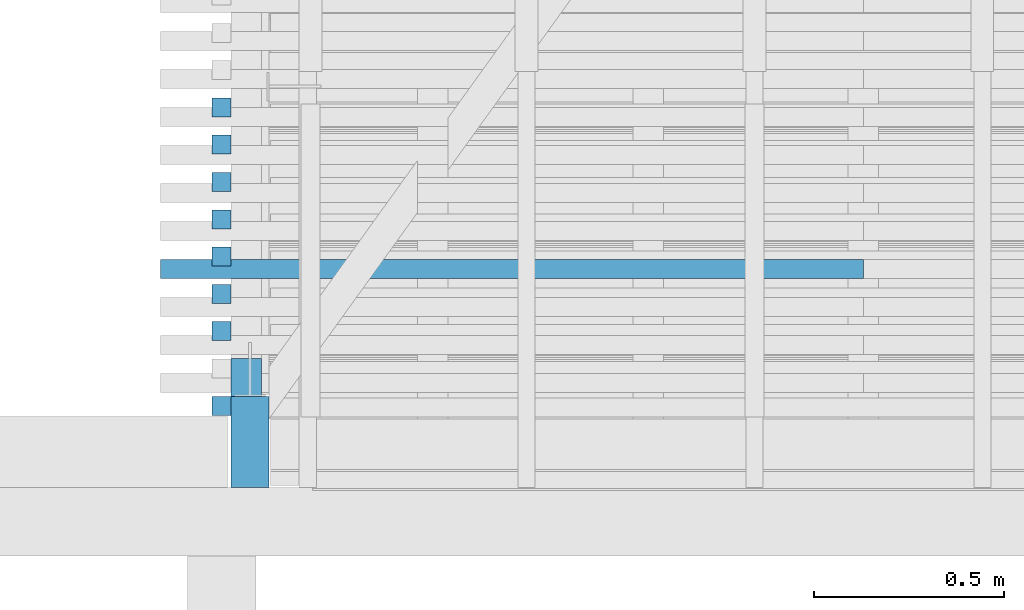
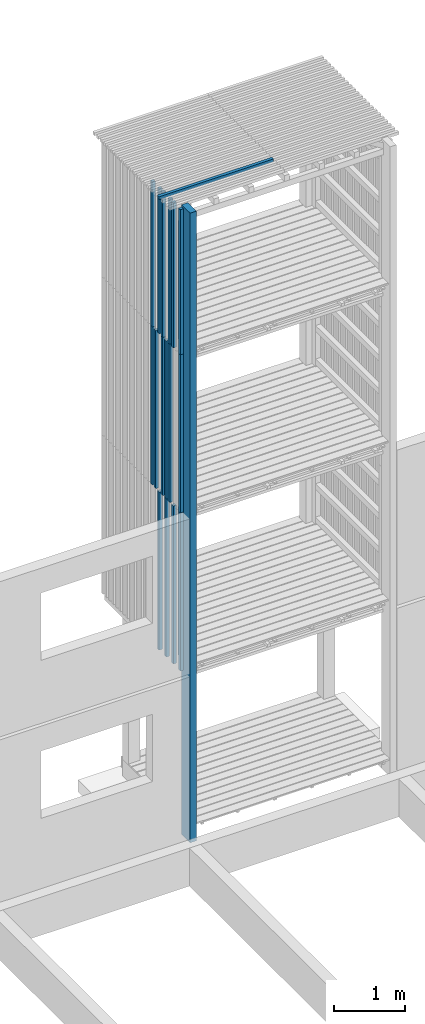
# One storey, part 8 of 182: 20 beams.
"""IFC2X3 building model written with IfcOpenShell, lengths in metres."""

import ifcopenshell
import ifcopenshell.guid

model = None  # the IFC model being written
_history = None  # IfcOwnerHistory: only IFC2X3 demands one
_inside = {}  # id of a spatial element -> (the spatial element, [elements in it])
_under = {}  # id of a project, library or spatial element -> (it, [spatial elements below it])
_declared = {}  # id of a project -> (the project, [libraries it declares])
_typed = {}  # id of a type object -> (the type object, [elements of that type])
_made_of = {}  # id of a material, layer set ... -> (it, [elements and type objects made of it])


def new_model(schema):
    """Start an empty IFC model of exactly this schema.

    Asked for "IFC4X3", IfcOpenShell would pick the latest addendum, in which some entities
    have other attributes; the version numbers below select the first issue.
    IFC2X3 requires an IfcOwnerHistory on every rooted entity: one is made here for all.
    """
    global model, _history
    if schema == "IFC4X3":
        model = ifcopenshell.file(schema_version=(4, 3, 0, 0))
    else:
        model = ifcopenshell.file(schema=schema)
    _inside.clear()
    _under.clear()
    _declared.clear()
    _typed.clear()
    _made_of.clear()
    _history = None
    if model.schema == "IFC2X3":
        org = make("IfcOrganization", Name="unknown")
        user = make(
            "IfcPersonAndOrganization",
            ThePerson=make("IfcPerson", FamilyName="unknown"),
            TheOrganization=org,
        )
        app = make(
            "IfcApplication",
            ApplicationDeveloper=org,
            Version="unknown",
            ApplicationFullName="unknown",
            ApplicationIdentifier="unknown",
        )
        _history = make(
            "IfcOwnerHistory",
            OwningUser=user,
            OwningApplication=app,
            ChangeAction="ADDED",
            CreationDate=0,
        )
    return model


def make(cls, **values):
    """One entity of the class cls with the attributes given. An attribute that is None is left unset."""
    return model.create_entity(
        cls, **{name: value for name, value in values.items() if value is not None}
    )


def rooted(cls, **values):
    """An entity with a GlobalId (a new one), such as an element, a storey or a relation."""
    return make(cls, GlobalId=ifcopenshell.guid.new(), OwnerHistory=_history, **values)


def si_unit(unit_type, name, prefix=None):
    """IfcSIUnit, for example si_unit("LENGTHUNIT", "METRE", prefix="MILLI")."""
    return make("IfcSIUnit", UnitType=unit_type, Prefix=prefix, Name=name)


def assignment(units):
    """IfcUnitAssignment: the units of a project."""
    return None if units is None else make("IfcUnitAssignment", Units=units)


def point(xyz):
    """IfcCartesianPoint."""
    return None if xyz is None else make("IfcCartesianPoint", Coordinates=xyz)


def direction(xyz):
    """IfcDirection."""
    return None if xyz is None else make("IfcDirection", DirectionRatios=xyz)


def frame(location, z_axis=None, x_axis=None):
    """IfcAxis2Placement3D, a coordinate frame: its origin and axes. An axis left out is left unset."""
    return make(
        "IfcAxis2Placement3D",
        Location=point(location),
        Axis=direction(z_axis),
        RefDirection=direction(x_axis),
    )


def origin():
    """The frame at (0, 0, 0) with its axes left unset."""
    return frame((0.0, 0.0, 0.0))


def place(relative_to, where):
    """IfcLocalPlacement: puts the frame where relative to a parent placement (None: the world)."""
    return make(
        "IfcLocalPlacement", PlacementRelTo=relative_to, RelativePlacement=where
    )


def context(
    kind, dimensions, precision=None, world=None, true_north=None, identifier=None
):
    """IfcGeometricRepresentationContext, for example the 3D "Model" context."""
    return make(
        "IfcGeometricRepresentationContext",
        ContextIdentifier=identifier,
        ContextType=kind,
        CoordinateSpaceDimension=dimensions,
        Precision=precision,
        WorldCoordinateSystem=world,
        TrueNorth=true_north,
    )


def project(units=None, contexts=None):
    """IfcProject with its units and contexts."""
    return rooted(
        "IfcProject",
        Name="project",
        RepresentationContexts=contexts,
        UnitsInContext=assignment(units),
    )


def spatial(cls, under=None, at=None, **own):
    """A site, building, storey or space (cls), placed at a placement, below another one or the project."""
    s = rooted(cls, ObjectPlacement=at, **own)
    if under is not None:
        _under.setdefault(under.id(), (under, []))[1].append(s)
    return s


def faces_of(points, faces, orient=None, outer=None):
    """IfcFace entities. A face is a list of loops; a loop is a list of indices into points, from 0.

    orient and outer hold one flag for each loop. By default every Orientation is true, the
    first loop of a face is its IfcFaceOuterBound and the others are IfcFaceBound.
    """
    made = []
    for i, loops in enumerate(faces):
        bounds = []
        for j, loop in enumerate(loops):
            is_outer = j == 0 if outer is None else outer[i][j]
            bounds.append(
                make(
                    "IfcFaceOuterBound" if is_outer else "IfcFaceBound",
                    Bound=make("IfcPolyLoop", Polygon=[points[k] for k in loop]),
                    Orientation=True if orient is None else orient[i][j],
                )
            )
        made.append(make("IfcFace", Bounds=bounds))
    return made


def faceted_brep(points, faces, orient=None, outer=None, voids=None):
    """IfcFacetedBrep: a solid bounded by flat faces; with voids (closed shells), ...WithVoids."""
    shared = [point(p) for p in points]
    hull = make("IfcClosedShell", CfsFaces=faces_of(shared, faces, orient, outer))
    if voids is None:
        return make("IfcFacetedBrep", Outer=hull)
    return make(
        "IfcFacetedBrepWithVoids",
        Outer=hull,
        Voids=[
            make(cls, CfsFaces=faces_of(shared, fs, o, b)) for cls, fs, o, b in voids
        ],
    )


def shape(context_of_items, identifier, shape_type, items):
    """IfcShapeRepresentation: the items that make up one representation, for example the "Body"."""
    return make(
        "IfcShapeRepresentation",
        ContextOfItems=context_of_items,
        RepresentationIdentifier=identifier,
        RepresentationType=shape_type,
        Items=items,
    )


def made_of(thing, what):
    """Note that an element or type object is made of a material, layer set ...; save() writes the relation."""
    if what is not None:
        _made_of.setdefault(what.id(), (what, []))[1].append(thing)
    return thing


def element(
    cls,
    number,
    at=None,
    inside=None,
    cuts=None,
    type_object=None,
    material=None,
    context=None,
    identifier="Body",
    shape_type=None,
    held_by="IfcProductDefinitionShape",
    body=None,
    shapes=None,
    **own,
):
    """One element of the class cls, such as IfcWall. Its Tag is "e" and its number.

    at: its placement. inside: the storey or other place that contains it. cuts: it is an
    opening in that element (IfcRelVoidsElement). A single representation is given by context,
    identifier, shape_type and body (its items); several are given by shapes. held_by: the class
    of the entity that holds the representations. save() writes the other relations.
    """
    e = rooted(cls, Tag="e%d" % number, ObjectPlacement=at, **own)
    if body is not None:
        shapes = [shape(context, identifier, shape_type, body)]
    if shapes is not None:
        e.Representation = make(held_by, Representations=shapes)
    if inside is not None:
        _inside.setdefault(inside.id(), (inside, []))[1].append(e)
    if cuts is not None:
        rooted(
            "IfcRelVoidsElement", RelatingBuildingElement=cuts, RelatedOpeningElement=e
        )
    if type_object is not None:
        _typed.setdefault(type_object.id(), (type_object, []))[1].append(e)
    return made_of(e, material)


def aggregate(whole, parts):
    """IfcRelAggregates: a whole, such as a stair, and the parts it consists of."""
    return rooted("IfcRelAggregates", RelatingObject=whole, RelatedObjects=parts)


def save(model, path):
    """Write the relations noted so far, then the file.

    IfcRelAggregates (storeys below a building ...), IfcRelContainedInSpatialStructure (elements
    in a storey), IfcRelDefinesByType, IfcRelAssociatesMaterial and IfcRelDeclares: one each for
    every whole, place, type object, material and project.
    """
    for whole, parts in _under.values():
        aggregate(whole, parts)
    for where, things in _inside.values():
        rooted(
            "IfcRelContainedInSpatialStructure",
            RelatedElements=things,
            RelatingStructure=where,
        )
    for kind, things in _typed.values():
        rooted("IfcRelDefinesByType", RelatedObjects=things, RelatingType=kind)
    for what, things in _made_of.values():
        rooted("IfcRelAssociatesMaterial", RelatedObjects=things, RelatingMaterial=what)
    for by, libraries in _declared.values():
        rooted("IfcRelDeclares", RelatingContext=by, RelatedDefinitions=libraries)
    model.write(path)


model = new_model("IFC2X3")

# Units and contexts
model_context = context("Model", 3, precision=1e-06, world=origin())
ifc_project = project(units=[si_unit("LENGTHUNIT", "METRE"), si_unit("PLANEANGLEUNIT", "RADIAN")], contexts=[model_context])

# Site, building, storey
site = spatial("IfcSite", under=ifc_project, CompositionType="ELEMENT")
building = spatial("IfcBuilding", under=site, CompositionType="ELEMENT")
storey = spatial("IfcBuildingStorey", under=building, Name="vs", CompositionType="ELEMENT", Elevation=-0.85)

# Beams
placement = place(None, origin())
beam_1_placement = place(placement, frame((3.289197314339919, 10.685077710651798, 5.274999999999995), z_axis=(1.0, 0.0, 0.0), x_axis=(0.0, 0.0, 1.0)))
element("IfcBeam", 1, at=beam_1_placement, inside=storey, Name="Bardage", context=model_context, shape_type="Brep", body=[
    faceted_brep([(2.699999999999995, 0.025000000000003, 0.025000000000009), (2.699999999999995, -0.024999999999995, 0.025000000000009), (2.699999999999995, -0.024999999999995, -0.025000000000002), (2.699999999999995, 0.025000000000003, -0.025000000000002), (1e-15, 0.025000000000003, 0.025000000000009), (2.699999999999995, 0.025000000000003, 0.025000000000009), (2.699999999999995, 0.025000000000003, -0.025000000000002), (1e-15, 0.025000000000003, -0.025000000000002), (1e-15, -0.024999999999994, 0.025000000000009), (1e-15, 0.025000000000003, 0.025000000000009), (1e-15, 0.025000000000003, -0.025000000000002), (1e-15, -0.024999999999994, -0.025000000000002), (1e-15, 0.025000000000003, 0.025000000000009), (1e-15, -0.024999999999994, 0.025000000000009), (2.699999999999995, -0.024999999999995, 0.025000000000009), (2.699999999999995, 0.025000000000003, 0.025000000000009), (1e-15, -0.024999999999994, 0.025000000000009), (1e-15, -0.024999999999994, -0.025000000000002), (2.699999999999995, -0.024999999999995, -0.025000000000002), (2.699999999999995, -0.024999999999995, 0.025000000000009), (1e-15, -0.024999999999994, -0.025000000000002), (1e-15, 0.025000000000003, -0.025000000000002), (2.699999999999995, 0.025000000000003, -0.025000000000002), (2.699999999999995, -0.024999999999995, -0.025000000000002)], [[[0, 1, 2, 3]], [[4, 5, 6, 7]], [[8, 9, 10, 11]], [[12, 13, 14, 15]], [[16, 17, 18, 19]], [[20, 21, 22, 23]]]),
])
beam_2_placement = place(placement, frame((3.289197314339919, 11.274168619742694, 2.575000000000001), z_axis=(1.0, 0.0, 0.0), x_axis=(0.0, 1e-15, 1.0)))
element("IfcBeam", 2, at=beam_2_placement, inside=storey, Name="Bardage", context=model_context, shape_type="Brep", body=[
    faceted_brep([(2.699961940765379, -0.024999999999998, 0.025000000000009), (2.699961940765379, -0.024999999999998, -0.025000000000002), (2.699961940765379, 0.025000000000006, -0.025000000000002), (2.699961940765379, 0.025000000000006, 0.025000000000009), (0.0, -0.025000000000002, 0.025000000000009), (2.699961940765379, -0.024999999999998, 0.025000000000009), (2.699961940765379, 0.025000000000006, 0.025000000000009), (0.0, 0.025000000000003, 0.025000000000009), (0.0, -0.025000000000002, 0.025000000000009), (0.0, 0.025000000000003, 0.025000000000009), (0.0, 0.025000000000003, -0.025000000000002), (0.0, -0.025000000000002, -0.025000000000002), (0.0, -0.025000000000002, 0.025000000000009), (0.0, -0.025000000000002, -0.025000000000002), (2.699961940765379, -0.024999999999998, -0.025000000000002), (2.699961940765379, -0.024999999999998, 0.025000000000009), (0.0, -0.025000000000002, -0.025000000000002), (0.0, 0.025000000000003, -0.025000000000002), (2.699961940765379, 0.025000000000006, -0.025000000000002), (2.699961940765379, -0.024999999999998, -0.025000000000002), (0.0, 0.025000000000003, -0.025000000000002), (0.0, 0.025000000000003, 0.025000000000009), (2.699961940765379, 0.025000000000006, 0.025000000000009), (2.699961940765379, 0.025000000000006, -0.025000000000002)], [[[0, 1, 2, 3]], [[4, 5, 6, 7]], [[8, 9, 10, 11]], [[12, 13, 14, 15]], [[16, 17, 18, 19]], [[20, 21, 22, 23]]]),
])
beam_3_placement = place(placement, frame((4.979197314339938, 11.045077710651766, 10.47999999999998), z_axis=(0.0, 0.0, 1.0), x_axis=(-1.0, -2e-15, 0.0)))
element("IfcBeam", 3, at=beam_3_placement, inside=storey, Name="Bardage", context=model_context, shape_type="Brep", body=[
    faceted_brep([(1.850000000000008, -0.025000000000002, -0.024999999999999), (1.850000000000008, -0.025000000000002, 0.025000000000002), (-1e-15, -0.025000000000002, 0.025000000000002), (-1e-15, -0.025000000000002, -0.024999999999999), (1.850000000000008, -0.025000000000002, 0.025000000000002), (1.850000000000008, -0.025000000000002, -0.024999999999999), (1.850000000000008, 0.024999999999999, -0.024999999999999), (1.850000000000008, 0.024999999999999, 0.025000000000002), (1.850000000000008, 0.024999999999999, -0.024999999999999), (1.850000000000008, -0.025000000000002, -0.024999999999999), (-1e-15, -0.025000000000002, -0.024999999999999), (-1e-15, 0.025000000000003, -0.024999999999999), (1.850000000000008, 0.024999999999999, 0.025000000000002), (1.850000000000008, 0.024999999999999, -0.024999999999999), (-1e-15, 0.025000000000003, -0.024999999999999), (-1e-15, 0.025000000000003, 0.025000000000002), (-1e-15, -0.025000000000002, 0.025000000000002), (1.850000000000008, -0.025000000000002, 0.025000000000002), (1.850000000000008, 0.024999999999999, 0.025000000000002), (-1e-15, 0.025000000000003, 0.025000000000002), (-1e-15, -0.025000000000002, -0.024999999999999), (-1e-15, -0.025000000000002, 0.025000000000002), (-1e-15, 0.025000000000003, 0.025000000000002), (-1e-15, 0.025000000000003, -0.024999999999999)], [[[0, 1, 2, 3]], [[4, 5, 6, 7]], [[8, 9, 10, 11]], [[12, 13, 14, 15]], [[16, 17, 18, 19]], [[20, 21, 22, 23]]]),
])
beam_4_placement = place(placement, frame((3.289197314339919, 11.470532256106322, 7.974999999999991), z_axis=(1.0, 0.0, 0.0), x_axis=(0.0, 0.0, 1.0)))
element("IfcBeam", 4, at=beam_4_placement, inside=storey, Name="Bardage", context=model_context, shape_type="Brep", body=[
    faceted_brep([(0.0, -0.025000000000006, 0.025000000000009), (0.0, 0.024999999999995, 0.025000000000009), (0.0, 0.024999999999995, -0.025000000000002), (0.0, -0.025000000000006, -0.025000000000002), (2.479999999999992, 0.024999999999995, -0.025000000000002), (2.479999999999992, 0.024999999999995, 0.025000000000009), (2.479999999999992, -0.025000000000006, 0.025000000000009), (2.479999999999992, -0.025000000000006, -0.025000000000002), (0.0, 0.024999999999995, 0.025000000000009), (0.0, -0.025000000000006, 0.025000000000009), (2.479999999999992, -0.025000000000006, 0.025000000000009), (2.479999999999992, 0.024999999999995, 0.025000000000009), (0.0, 0.024999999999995, -0.025000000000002), (0.0, 0.024999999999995, 0.025000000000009), (2.479999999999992, 0.024999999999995, 0.025000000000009), (2.479999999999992, 0.024999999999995, -0.025000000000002), (0.0, -0.025000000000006, -0.025000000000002), (0.0, 0.024999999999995, -0.025000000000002), (2.479999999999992, 0.024999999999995, -0.025000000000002), (2.479999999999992, -0.025000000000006, -0.025000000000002), (2.479999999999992, -0.025000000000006, 0.025000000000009), (0.0, -0.025000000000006, 0.025000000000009), (0.0, -0.025000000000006, -0.025000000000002), (2.479999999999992, -0.025000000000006, -0.025000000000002)], [[[0, 1, 2, 3]], [[4, 5, 6, 7]], [[8, 9, 10, 11]], [[12, 13, 14, 15]], [[16, 17, 18, 19]], [[20, 21, 22, 23]]]),
])
beam_5_placement = place(placement, frame((3.289197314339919, 10.685077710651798, 7.974999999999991), z_axis=(1.0, 0.0, 0.0), x_axis=(0.0, 0.0, 1.0)))
element("IfcBeam", 5, at=beam_5_placement, inside=storey, Name="Bardage", context=model_context, shape_type="Brep", body=[
    faceted_brep([(0.0, -0.024999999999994, 0.025000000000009), (0.0, 0.025000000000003, 0.025000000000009), (0.0, 0.025000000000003, -0.025000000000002), (0.0, -0.024999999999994, -0.025000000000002), (2.479999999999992, 0.025000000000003, -0.025000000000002), (2.479999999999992, 0.025000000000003, 0.025000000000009), (2.479999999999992, -0.024999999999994, 0.025000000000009), (2.479999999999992, -0.024999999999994, -0.025000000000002), (0.0, 0.025000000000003, 0.025000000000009), (0.0, -0.024999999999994, 0.025000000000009), (2.479999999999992, -0.024999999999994, 0.025000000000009), (2.479999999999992, 0.025000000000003, 0.025000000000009), (0.0, 0.025000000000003, -0.025000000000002), (0.0, 0.025000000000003, 0.025000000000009), (2.479999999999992, 0.025000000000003, 0.025000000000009), (2.479999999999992, 0.025000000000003, -0.025000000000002), (0.0, -0.024999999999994, -0.025000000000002), (0.0, 0.025000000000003, -0.025000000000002), (2.479999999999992, 0.025000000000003, -0.025000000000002), (2.479999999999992, -0.024999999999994, -0.025000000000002), (2.479999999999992, -0.024999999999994, 0.025000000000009), (0.0, -0.024999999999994, 0.025000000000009), (0.0, -0.024999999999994, -0.025000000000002), (2.479999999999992, -0.024999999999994, -0.025000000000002)], [[[0, 1, 2, 3]], [[4, 5, 6, 7]], [[8, 9, 10, 11]], [[12, 13, 14, 15]], [[16, 17, 18, 19]], [[20, 21, 22, 23]]]),
])
beam_6_placement = place(placement, frame((3.289197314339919, 10.685077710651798, 2.575000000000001), z_axis=(1.0, 0.0, 0.0), x_axis=(0.0, 0.0, 1.0)))
element("IfcBeam", 6, at=beam_6_placement, inside=storey, Name="Bardage", context=model_context, shape_type="Brep", body=[
    faceted_brep([(2.699961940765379, -0.024999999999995, 0.025000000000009), (2.699961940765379, -0.024999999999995, -0.025000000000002), (2.699961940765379, 0.025000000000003, -0.025000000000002), (2.699961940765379, 0.025000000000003, 0.025000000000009), (0.0, -0.024999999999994, 0.025000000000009), (2.699961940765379, -0.024999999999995, 0.025000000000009), (2.699961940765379, 0.025000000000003, 0.025000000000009), (0.0, 0.025000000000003, 0.025000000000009), (0.0, -0.024999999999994, 0.025000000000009), (0.0, 0.025000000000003, 0.025000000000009), (0.0, 0.025000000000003, -0.025000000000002), (0.0, -0.024999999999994, -0.025000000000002), (0.0, -0.024999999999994, 0.025000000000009), (0.0, -0.024999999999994, -0.025000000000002), (2.699961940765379, -0.024999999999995, -0.025000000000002), (2.699961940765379, -0.024999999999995, 0.025000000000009), (0.0, -0.024999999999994, -0.025000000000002), (0.0, 0.025000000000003, -0.025000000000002), (2.699961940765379, 0.025000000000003, -0.025000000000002), (2.699961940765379, -0.024999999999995, -0.025000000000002), (0.0, 0.025000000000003, -0.025000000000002), (0.0, 0.025000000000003, 0.025000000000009), (2.699961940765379, 0.025000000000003, 0.025000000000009), (2.699961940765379, 0.025000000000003, -0.025000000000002)], [[[0, 1, 2, 3]], [[4, 5, 6, 7]], [[8, 9, 10, 11]], [[12, 13, 14, 15]], [[16, 17, 18, 19]], [[20, 21, 22, 23]]]),
])
beam_7_placement = place(placement, frame((3.354197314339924, 10.760077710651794, 8.14699999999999), z_axis=(0.0, 1.0, 0.0), x_axis=(0.0, 0.0, 1.0)))
element("IfcBeam", 7, at=beam_7_placement, inside=storey, Name="Support bardage", context=model_context, shape_type="Brep", body=[
    faceted_brep([(2.017999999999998, -0.039999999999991, 0.05), (2.017999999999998, -0.039999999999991, -0.050000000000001), (2.017999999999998, 0.040000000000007, -0.050000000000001), (2.017999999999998, 0.040000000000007, 0.05), (1e-15, -0.039999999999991, -0.050000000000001), (1e-15, -0.039999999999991, 0.05), (1e-15, 0.040000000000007, 0.05), (1e-15, 0.040000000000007, -0.050000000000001), (2.017999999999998, 0.040000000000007, -0.050000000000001), (2.017999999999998, -0.039999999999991, -0.050000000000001), (1e-15, -0.039999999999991, -0.050000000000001), (1e-15, 0.040000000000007, -0.050000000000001), (1e-15, -0.039999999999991, -0.050000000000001), (2.017999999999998, -0.039999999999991, -0.050000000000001), (2.017999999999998, -0.039999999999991, 0.05), (1e-15, -0.039999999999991, 0.05), (1e-15, -0.039999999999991, 0.05), (2.017999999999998, -0.039999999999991, 0.05), (2.017999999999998, 0.040000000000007, 0.05), (1e-15, 0.040000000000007, 0.05), (1e-15, 0.040000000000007, 0.05), (2.017999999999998, 0.040000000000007, 0.05), (2.017999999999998, 0.040000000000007, -0.050000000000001), (1e-15, 0.040000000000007, -0.050000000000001)], [[[0, 1, 2, 3]], [[4, 5, 6, 7]], [[8, 9, 10, 11]], [[12, 13, 14, 15]], [[16, 17, 18, 19]], [[20, 21, 22, 23]]]),
])
beam_8_placement = place(placement, frame((3.289197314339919, 10.979623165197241, 5.274999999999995), z_axis=(1.0, 0.0, 0.0), x_axis=(0.0, 1e-15, 1.0)))
element("IfcBeam", 8, at=beam_8_placement, inside=storey, Name="Bardage", context=model_context, shape_type="Brep", body=[
    faceted_brep([(2.699999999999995, 0.025000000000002, 0.025000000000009), (2.699999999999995, -0.024999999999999, 0.025000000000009), (2.699999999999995, -0.024999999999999, -0.025000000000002), (2.699999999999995, 0.025000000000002, -0.025000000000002), (1e-15, 0.024999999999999, 0.025000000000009), (2.699999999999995, 0.025000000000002, 0.025000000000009), (2.699999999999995, 0.025000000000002, -0.025000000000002), (1e-15, 0.024999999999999, -0.025000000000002), (1e-15, -0.025000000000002, 0.025000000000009), (1e-15, 0.024999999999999, 0.025000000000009), (1e-15, 0.024999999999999, -0.025000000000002), (1e-15, -0.025000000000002, -0.025000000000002), (1e-15, 0.024999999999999, 0.025000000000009), (1e-15, -0.025000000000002, 0.025000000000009), (2.699999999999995, -0.024999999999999, 0.025000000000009), (2.699999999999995, 0.025000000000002, 0.025000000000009), (1e-15, -0.025000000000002, 0.025000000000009), (1e-15, -0.025000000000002, -0.025000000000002), (2.699999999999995, -0.024999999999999, -0.025000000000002), (2.699999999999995, -0.024999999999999, 0.025000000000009), (1e-15, -0.025000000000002, -0.025000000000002), (1e-15, 0.024999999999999, -0.025000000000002), (2.699999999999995, 0.025000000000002, -0.025000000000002), (2.699999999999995, -0.024999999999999, -0.025000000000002)], [[[0, 1, 2, 3]], [[4, 5, 6, 7]], [[8, 9, 10, 11]], [[12, 13, 14, 15]], [[16, 17, 18, 19]], [[20, 21, 22, 23]]]),
])
beam_9_placement = place(placement, frame((3.289197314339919, 11.470532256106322, 5.274999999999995), z_axis=(1.0, 0.0, 0.0), x_axis=(0.0, 0.0, 1.0)))
element("IfcBeam", 9, at=beam_9_placement, inside=storey, Name="Bardage", context=model_context, shape_type="Brep", body=[
    faceted_brep([(2.699999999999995, 0.024999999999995, 0.025000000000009), (2.699999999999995, -0.025000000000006, 0.025000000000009), (2.699999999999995, -0.025000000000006, -0.025000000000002), (2.699999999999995, 0.024999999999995, -0.025000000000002), (1e-15, 0.024999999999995, 0.025000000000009), (2.699999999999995, 0.024999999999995, 0.025000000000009), (2.699999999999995, 0.024999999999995, -0.025000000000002), (1e-15, 0.024999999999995, -0.025000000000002), (1e-15, -0.025000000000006, 0.025000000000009), (1e-15, 0.024999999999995, 0.025000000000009), (1e-15, 0.024999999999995, -0.025000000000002), (1e-15, -0.025000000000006, -0.025000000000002), (1e-15, 0.024999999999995, 0.025000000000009), (1e-15, -0.025000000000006, 0.025000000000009), (2.699999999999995, -0.025000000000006, 0.025000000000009), (2.699999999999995, 0.024999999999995, 0.025000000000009), (1e-15, -0.025000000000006, 0.025000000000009), (1e-15, -0.025000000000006, -0.025000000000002), (2.699999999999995, -0.025000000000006, -0.025000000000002), (2.699999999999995, -0.025000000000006, 0.025000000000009), (1e-15, -0.025000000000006, -0.025000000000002), (1e-15, 0.024999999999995, -0.025000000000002), (2.699999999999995, 0.024999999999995, -0.025000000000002), (2.699999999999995, -0.025000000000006, -0.025000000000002)], [[[0, 1, 2, 3]], [[4, 5, 6, 7]], [[8, 9, 10, 11]], [[12, 13, 14, 15]], [[16, 17, 18, 19]], [[20, 21, 22, 23]]]),
])
beam_10_placement = place(placement, frame((3.289197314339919, 11.274168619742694, 7.974999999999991), z_axis=(1.0, 0.0, 0.0), x_axis=(0.0, 0.0, 1.0)))
element("IfcBeam", 10, at=beam_10_placement, inside=storey, Name="Bardage", context=model_context, shape_type="Brep", body=[
    faceted_brep([(0.0, -0.025000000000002, 0.025000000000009), (0.0, 0.025000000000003, 0.025000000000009), (0.0, 0.025000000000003, -0.025000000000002), (0.0, -0.025000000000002, -0.025000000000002), (2.479999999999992, 0.025000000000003, -0.025000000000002), (2.479999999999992, 0.025000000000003, 0.025000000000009), (2.479999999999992, -0.025000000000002, 0.025000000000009), (2.479999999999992, -0.025000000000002, -0.025000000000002), (0.0, 0.025000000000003, 0.025000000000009), (0.0, -0.025000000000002, 0.025000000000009), (2.479999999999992, -0.025000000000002, 0.025000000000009), (2.479999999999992, 0.025000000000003, 0.025000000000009), (0.0, 0.025000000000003, -0.025000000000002), (0.0, 0.025000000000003, 0.025000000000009), (2.479999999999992, 0.025000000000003, 0.025000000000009), (2.479999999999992, 0.025000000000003, -0.025000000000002), (0.0, -0.025000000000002, -0.025000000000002), (0.0, 0.025000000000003, -0.025000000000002), (2.479999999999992, 0.025000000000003, -0.025000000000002), (2.479999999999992, -0.025000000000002, -0.025000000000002), (2.479999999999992, -0.025000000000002, 0.025000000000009), (0.0, -0.025000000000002, 0.025000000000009), (0.0, -0.025000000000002, -0.025000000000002), (2.479999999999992, -0.025000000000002, -0.025000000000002)], [[[0, 1, 2, 3]], [[4, 5, 6, 7]], [[8, 9, 10, 11]], [[12, 13, 14, 15]], [[16, 17, 18, 19]], [[20, 21, 22, 23]]]),
])
beam_11_placement = place(placement, frame((3.364197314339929, 10.590077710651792, 10.494999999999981), z_axis=(0.0, 1.0, 0.0), x_axis=(0.0, 0.0, -1.0)))
element("IfcBeam", 11, at=beam_11_placement, inside=storey, Name="Poteau", context=model_context, shape_type="Brep", body=[
    faceted_brep([(0.0, -0.049999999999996, 0.120000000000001), (0.0, -0.049999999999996, -0.120000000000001), (10.754999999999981, -0.049999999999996, -0.120000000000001), (10.754999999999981, -0.049999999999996, 0.120000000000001), (10.754999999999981, -0.049999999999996, -0.120000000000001), (0.0, -0.049999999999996, -0.120000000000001), (0.0, 0.049999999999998, -0.120000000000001), (10.754999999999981, 0.049999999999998, -0.120000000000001), (10.754999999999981, -0.049999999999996, 0.120000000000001), (10.754999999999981, -0.049999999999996, -0.120000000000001), (10.754999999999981, 0.049999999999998, -0.120000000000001), (10.754999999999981, 0.049999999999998, 0.120000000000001), (0.0, -0.049999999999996, 0.120000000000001), (10.754999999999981, -0.049999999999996, 0.120000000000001), (10.754999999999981, 0.049999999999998, 0.120000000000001), (0.0, 0.049999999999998, 0.120000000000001), (10.754999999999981, 0.049999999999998, -0.120000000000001), (0.0, 0.049999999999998, -0.120000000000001), (0.0, 0.049999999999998, 0.120000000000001), (10.754999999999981, 0.049999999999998, 0.120000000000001), (0.0, 0.049999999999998, 0.120000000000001), (0.0, 0.049999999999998, -0.120000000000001), (0.0, -0.049999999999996, -0.120000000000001), (0.0, -0.049999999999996, 0.120000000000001)], [[[0, 1, 2, 3]], [[4, 5, 6, 7]], [[8, 9, 10, 11]], [[12, 13, 14, 15]], [[16, 17, 18, 19]], [[20, 21, 22, 23]]]),
])
beam_12_placement = place(placement, frame((3.354197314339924, 10.760077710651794, 2.746999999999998), z_axis=(0.0, 1.0, 0.0), x_axis=(0.0, 0.0, 1.0)))
element("IfcBeam", 12, at=beam_12_placement, inside=storey, Name="Support bardage", context=model_context, shape_type="Brep", body=[
    faceted_brep([(2.527961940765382, 0.040000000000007, -0.050000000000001), (2.527961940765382, 0.040000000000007, 0.05), (2.527961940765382, -0.039999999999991, 0.05), (2.527961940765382, -0.039999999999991, -0.050000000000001), (0.0, 0.040000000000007, -0.050000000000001), (2.527961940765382, 0.040000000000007, -0.050000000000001), (2.527961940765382, -0.039999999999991, -0.050000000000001), (0.0, -0.039999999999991, -0.050000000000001), (0.0, 0.040000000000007, -0.050000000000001), (0.0, -0.039999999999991, -0.050000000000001), (0.0, -0.039999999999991, 0.05), (0.0, 0.040000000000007, 0.05), (0.0, 0.040000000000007, -0.050000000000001), (0.0, 0.040000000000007, 0.05), (2.527961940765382, 0.040000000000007, 0.05), (2.527961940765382, 0.040000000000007, -0.050000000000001), (0.0, 0.040000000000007, 0.05), (0.0, -0.039999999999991, 0.05), (2.527961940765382, -0.039999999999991, 0.05), (2.527961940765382, 0.040000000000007, 0.05), (0.0, -0.039999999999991, 0.05), (0.0, -0.039999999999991, -0.050000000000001), (2.527961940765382, -0.039999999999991, -0.050000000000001), (2.527961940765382, -0.039999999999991, 0.05)], [[[0, 1, 2, 3]], [[4, 5, 6, 7]], [[8, 9, 10, 11]], [[12, 13, 14, 15]], [[16, 17, 18, 19]], [[20, 21, 22, 23]]]),
])
beam_13_placement = place(placement, frame((3.289197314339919, 11.175986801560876, 5.274999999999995), z_axis=(1.0, 0.0, 0.0), x_axis=(0.0, 0.0, 1.0)))
element("IfcBeam", 13, at=beam_13_placement, inside=storey, Name="Bardage", context=model_context, shape_type="Brep", body=[
    faceted_brep([(2.699999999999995, 0.024999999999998, 0.025000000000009), (2.699999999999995, -0.024999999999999, 0.025000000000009), (2.699999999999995, -0.024999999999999, -0.025000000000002), (2.699999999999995, 0.024999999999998, -0.025000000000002), (1e-15, 0.024999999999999, 0.025000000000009), (2.699999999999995, 0.024999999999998, 0.025000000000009), (2.699999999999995, 0.024999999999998, -0.025000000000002), (1e-15, 0.024999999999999, -0.025000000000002), (1e-15, -0.024999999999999, 0.025000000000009), (1e-15, 0.024999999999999, 0.025000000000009), (1e-15, 0.024999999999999, -0.025000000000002), (1e-15, -0.024999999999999, -0.025000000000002), (1e-15, 0.024999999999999, 0.025000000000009), (1e-15, -0.024999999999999, 0.025000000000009), (2.699999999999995, -0.024999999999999, 0.025000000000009), (2.699999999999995, 0.024999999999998, 0.025000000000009), (1e-15, -0.024999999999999, 0.025000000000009), (1e-15, -0.024999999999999, -0.025000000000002), (2.699999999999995, -0.024999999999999, -0.025000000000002), (2.699999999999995, -0.024999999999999, 0.025000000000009), (1e-15, -0.024999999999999, -0.025000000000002), (1e-15, 0.024999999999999, -0.025000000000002), (2.699999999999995, 0.024999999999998, -0.025000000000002), (2.699999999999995, -0.024999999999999, -0.025000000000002)], [[[0, 1, 2, 3]], [[4, 5, 6, 7]], [[8, 9, 10, 11]], [[12, 13, 14, 15]], [[16, 17, 18, 19]], [[20, 21, 22, 23]]]),
])
beam_14_placement = place(placement, frame((3.289197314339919, 10.979623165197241, 7.974999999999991), z_axis=(1.0, 0.0, 0.0), x_axis=(0.0, 1e-15, 1.0)))
element("IfcBeam", 14, at=beam_14_placement, inside=storey, Name="Bardage", context=model_context, shape_type="Brep", body=[
    faceted_brep([(0.0, -0.025000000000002, 0.025000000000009), (0.0, 0.024999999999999, 0.025000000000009), (0.0, 0.024999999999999, -0.025000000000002), (0.0, -0.025000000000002, -0.025000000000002), (2.479999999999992, 0.025000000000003, -0.025000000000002), (2.479999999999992, 0.025000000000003, 0.025000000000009), (2.479999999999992, -0.024999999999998, 0.025000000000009), (2.479999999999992, -0.024999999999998, -0.025000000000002), (0.0, 0.024999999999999, 0.025000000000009), (0.0, -0.025000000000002, 0.025000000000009), (2.479999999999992, -0.024999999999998, 0.025000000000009), (2.479999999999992, 0.025000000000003, 0.025000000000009), (0.0, 0.024999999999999, -0.025000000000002), (0.0, 0.024999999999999, 0.025000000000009), (2.479999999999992, 0.025000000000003, 0.025000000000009), (2.479999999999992, 0.025000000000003, -0.025000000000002), (0.0, -0.025000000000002, -0.025000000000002), (0.0, 0.024999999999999, -0.025000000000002), (2.479999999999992, 0.025000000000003, -0.025000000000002), (2.479999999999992, -0.024999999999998, -0.025000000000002), (2.479999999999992, -0.024999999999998, 0.025000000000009), (0.0, -0.025000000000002, 0.025000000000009), (0.0, -0.025000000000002, -0.025000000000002), (2.479999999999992, -0.024999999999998, -0.025000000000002)], [[[0, 1, 2, 3]], [[4, 5, 6, 7]], [[8, 9, 10, 11]], [[12, 13, 14, 15]], [[16, 17, 18, 19]], [[20, 21, 22, 23]]]),
])
beam_15_placement = place(placement, frame((3.289197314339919, 10.881441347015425, 7.974999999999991), z_axis=(1.0, 0.0, 0.0), x_axis=(0.0, 0.0, 1.0)))
element("IfcBeam", 15, at=beam_15_placement, inside=storey, Name="Bardage", context=model_context, shape_type="Brep", body=[
    faceted_brep([(0.0, -0.024999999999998, 0.025000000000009), (0.0, 0.024999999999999, 0.025000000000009), (0.0, 0.024999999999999, -0.025000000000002), (0.0, -0.024999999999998, -0.025000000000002), (2.479999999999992, 0.024999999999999, -0.025000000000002), (2.479999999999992, 0.024999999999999, 0.025000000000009), (2.479999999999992, -0.024999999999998, 0.025000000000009), (2.479999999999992, -0.024999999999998, -0.025000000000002), (0.0, 0.024999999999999, 0.025000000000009), (0.0, -0.024999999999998, 0.025000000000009), (2.479999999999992, -0.024999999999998, 0.025000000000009), (2.479999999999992, 0.024999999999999, 0.025000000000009), (0.0, 0.024999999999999, -0.025000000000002), (0.0, 0.024999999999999, 0.025000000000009), (2.479999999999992, 0.024999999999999, 0.025000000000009), (2.479999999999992, 0.024999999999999, -0.025000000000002), (0.0, -0.024999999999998, -0.025000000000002), (0.0, 0.024999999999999, -0.025000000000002), (2.479999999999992, 0.024999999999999, -0.025000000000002), (2.479999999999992, -0.024999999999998, -0.025000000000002), (2.479999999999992, -0.024999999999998, 0.025000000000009), (0.0, -0.024999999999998, 0.025000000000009), (0.0, -0.024999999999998, -0.025000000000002), (2.479999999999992, -0.024999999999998, -0.025000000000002)], [[[0, 1, 2, 3]], [[4, 5, 6, 7]], [[8, 9, 10, 11]], [[12, 13, 14, 15]], [[16, 17, 18, 19]], [[20, 21, 22, 23]]]),
])
beam_16_placement = place(placement, frame((3.289197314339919, 11.07780498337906, 2.575000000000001), z_axis=(1.0, 0.0, 0.0), x_axis=(0.0, 0.0, 1.0)))
element("IfcBeam", 16, at=beam_16_placement, inside=storey, Name="Bardage", context=model_context, shape_type="Brep", body=[
    faceted_brep([(2.699961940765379, -0.024999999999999, 0.025000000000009), (2.699961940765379, -0.024999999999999, -0.025000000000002), (2.699961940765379, 0.025000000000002, -0.025000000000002), (2.699961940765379, 0.025000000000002, 0.025000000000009), (0.0, -0.024999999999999, 0.025000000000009), (2.699961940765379, -0.024999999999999, 0.025000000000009), (2.699961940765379, 0.025000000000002, 0.025000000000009), (0.0, 0.025000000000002, 0.025000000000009), (0.0, -0.024999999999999, 0.025000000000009), (0.0, 0.025000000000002, 0.025000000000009), (0.0, 0.025000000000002, -0.025000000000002), (0.0, -0.024999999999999, -0.025000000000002), (0.0, -0.024999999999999, 0.025000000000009), (0.0, -0.024999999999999, -0.025000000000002), (2.699961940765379, -0.024999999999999, -0.025000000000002), (2.699961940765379, -0.024999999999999, 0.025000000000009), (0.0, -0.024999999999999, -0.025000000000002), (0.0, 0.025000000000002, -0.025000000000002), (2.699961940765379, 0.025000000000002, -0.025000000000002), (2.699961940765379, -0.024999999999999, -0.025000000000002), (0.0, 0.025000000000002, -0.025000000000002), (0.0, 0.025000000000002, 0.025000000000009), (2.699961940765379, 0.025000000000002, 0.025000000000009), (2.699961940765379, 0.025000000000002, -0.025000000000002)], [[[0, 1, 2, 3]], [[4, 5, 6, 7]], [[8, 9, 10, 11]], [[12, 13, 14, 15]], [[16, 17, 18, 19]], [[20, 21, 22, 23]]]),
])
beam_17_placement = place(placement, frame((3.289197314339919, 11.07780498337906, 5.274999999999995), z_axis=(1.0, 0.0, 0.0), x_axis=(0.0, 0.0, 1.0)))
element("IfcBeam", 17, at=beam_17_placement, inside=storey, Name="Bardage", context=model_context, shape_type="Brep", body=[
    faceted_brep([(2.699999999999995, 0.025000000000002, 0.025000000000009), (2.699999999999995, -0.024999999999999, 0.025000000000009), (2.699999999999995, -0.024999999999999, -0.025000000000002), (2.699999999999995, 0.025000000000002, -0.025000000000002), (1e-15, 0.025000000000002, 0.025000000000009), (2.699999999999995, 0.025000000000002, 0.025000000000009), (2.699999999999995, 0.025000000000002, -0.025000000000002), (1e-15, 0.025000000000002, -0.025000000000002), (1e-15, -0.024999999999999, 0.025000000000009), (1e-15, 0.025000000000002, 0.025000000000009), (1e-15, 0.025000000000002, -0.025000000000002), (1e-15, -0.024999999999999, -0.025000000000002), (1e-15, 0.025000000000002, 0.025000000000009), (1e-15, -0.024999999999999, 0.025000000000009), (2.699999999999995, -0.024999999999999, 0.025000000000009), (2.699999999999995, 0.025000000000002, 0.025000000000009), (1e-15, -0.024999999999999, 0.025000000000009), (1e-15, -0.024999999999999, -0.025000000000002), (2.699999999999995, -0.024999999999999, -0.025000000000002), (2.699999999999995, -0.024999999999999, 0.025000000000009), (1e-15, -0.024999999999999, -0.025000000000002), (1e-15, 0.025000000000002, -0.025000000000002), (2.699999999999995, 0.025000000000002, -0.025000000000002), (2.699999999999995, -0.024999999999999, -0.025000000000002)], [[[0, 1, 2, 3]], [[4, 5, 6, 7]], [[8, 9, 10, 11]], [[12, 13, 14, 15]], [[16, 17, 18, 19]], [[20, 21, 22, 23]]]),
])
beam_18_placement = place(placement, frame((3.289197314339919, 10.881441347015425, 2.575000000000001), z_axis=(1.0, 0.0, 0.0), x_axis=(0.0, 0.0, 1.0)))
element("IfcBeam", 18, at=beam_18_placement, inside=storey, Name="Bardage", context=model_context, shape_type="Brep", body=[
    faceted_brep([(2.699961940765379, -0.024999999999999, 0.025000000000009), (2.699961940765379, -0.024999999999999, -0.025000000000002), (2.699961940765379, 0.024999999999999, -0.025000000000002), (2.699961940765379, 0.024999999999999, 0.025000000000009), (0.0, -0.024999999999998, 0.025000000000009), (2.699961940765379, -0.024999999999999, 0.025000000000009), (2.699961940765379, 0.024999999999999, 0.025000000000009), (0.0, 0.024999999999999, 0.025000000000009), (0.0, -0.024999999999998, 0.025000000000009), (0.0, 0.024999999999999, 0.025000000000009), (0.0, 0.024999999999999, -0.025000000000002), (0.0, -0.024999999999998, -0.025000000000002), (0.0, -0.024999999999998, 0.025000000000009), (0.0, -0.024999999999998, -0.025000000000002), (2.699961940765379, -0.024999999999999, -0.025000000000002), (2.699961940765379, -0.024999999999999, 0.025000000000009), (0.0, -0.024999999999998, -0.025000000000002), (0.0, 0.024999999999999, -0.025000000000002), (2.699961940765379, 0.024999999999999, -0.025000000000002), (2.699961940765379, -0.024999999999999, -0.025000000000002), (0.0, 0.024999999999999, -0.025000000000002), (0.0, 0.024999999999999, 0.025000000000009), (2.699961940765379, 0.024999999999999, 0.025000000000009), (2.699961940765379, 0.024999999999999, -0.025000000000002)], [[[0, 1, 2, 3]], [[4, 5, 6, 7]], [[8, 9, 10, 11]], [[12, 13, 14, 15]], [[16, 17, 18, 19]], [[20, 21, 22, 23]]]),
])
beam_19_placement = place(placement, frame((3.289197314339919, 11.372350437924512, 5.274999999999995), z_axis=(1.0, 0.0, 0.0), x_axis=(0.0, 0.0, 1.0)))
element("IfcBeam", 19, at=beam_19_placement, inside=storey, Name="Bardage", context=model_context, shape_type="Brep", body=[
    faceted_brep([(2.699999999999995, 0.024999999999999, 0.025000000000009), (2.699999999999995, -0.024999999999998, 0.025000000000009), (2.699999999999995, -0.024999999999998, -0.025000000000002), (2.699999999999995, 0.024999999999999, -0.025000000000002), (1e-15, 0.024999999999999, 0.025000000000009), (2.699999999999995, 0.024999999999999, 0.025000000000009), (2.699999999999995, 0.024999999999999, -0.025000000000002), (1e-15, 0.024999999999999, -0.025000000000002), (1e-15, -0.024999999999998, 0.025000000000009), (1e-15, 0.024999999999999, 0.025000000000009), (1e-15, 0.024999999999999, -0.025000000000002), (1e-15, -0.024999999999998, -0.025000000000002), (1e-15, 0.024999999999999, 0.025000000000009), (1e-15, -0.024999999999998, 0.025000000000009), (2.699999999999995, -0.024999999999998, 0.025000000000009), (2.699999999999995, 0.024999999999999, 0.025000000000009), (1e-15, -0.024999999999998, 0.025000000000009), (1e-15, -0.024999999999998, -0.025000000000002), (2.699999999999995, -0.024999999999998, -0.025000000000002), (2.699999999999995, -0.024999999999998, 0.025000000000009), (1e-15, -0.024999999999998, -0.025000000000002), (1e-15, 0.024999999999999, -0.025000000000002), (2.699999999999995, 0.024999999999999, -0.025000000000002), (2.699999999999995, -0.024999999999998, -0.025000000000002)], [[[0, 1, 2, 3]], [[4, 5, 6, 7]], [[8, 9, 10, 11]], [[12, 13, 14, 15]], [[16, 17, 18, 19]], [[20, 21, 22, 23]]]),
])
beam_20_placement = place(placement, frame((3.289197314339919, 11.175986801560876, 7.974999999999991), z_axis=(1.0, 0.0, 0.0), x_axis=(0.0, 0.0, 1.0)))
element("IfcBeam", 20, at=beam_20_placement, inside=storey, Name="Bardage", context=model_context, shape_type="Brep", body=[
    faceted_brep([(0.0, -0.024999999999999, 0.025000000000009), (0.0, 0.024999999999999, 0.025000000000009), (0.0, 0.024999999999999, -0.025000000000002), (0.0, -0.024999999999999, -0.025000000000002), (2.479999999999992, 0.024999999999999, -0.025000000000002), (2.479999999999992, 0.024999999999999, 0.025000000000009), (2.479999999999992, -0.024999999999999, 0.025000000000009), (2.479999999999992, -0.024999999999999, -0.025000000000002), (0.0, 0.024999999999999, 0.025000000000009), (0.0, -0.024999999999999, 0.025000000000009), (2.479999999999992, -0.024999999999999, 0.025000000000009), (2.479999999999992, 0.024999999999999, 0.025000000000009), (0.0, 0.024999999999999, -0.025000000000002), (0.0, 0.024999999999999, 0.025000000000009), (2.479999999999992, 0.024999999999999, 0.025000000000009), (2.479999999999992, 0.024999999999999, -0.025000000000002), (0.0, -0.024999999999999, -0.025000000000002), (0.0, 0.024999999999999, -0.025000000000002), (2.479999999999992, 0.024999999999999, -0.025000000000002), (2.479999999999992, -0.024999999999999, -0.025000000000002), (2.479999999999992, -0.024999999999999, 0.025000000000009), (0.0, -0.024999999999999, 0.025000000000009), (0.0, -0.024999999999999, -0.025000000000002), (2.479999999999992, -0.024999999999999, -0.025000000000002)], [[[0, 1, 2, 3]], [[4, 5, 6, 7]], [[8, 9, 10, 11]], [[12, 13, 14, 15]], [[16, 17, 18, 19]], [[20, 21, 22, 23]]]),
])

save(model, "model.ifc")
